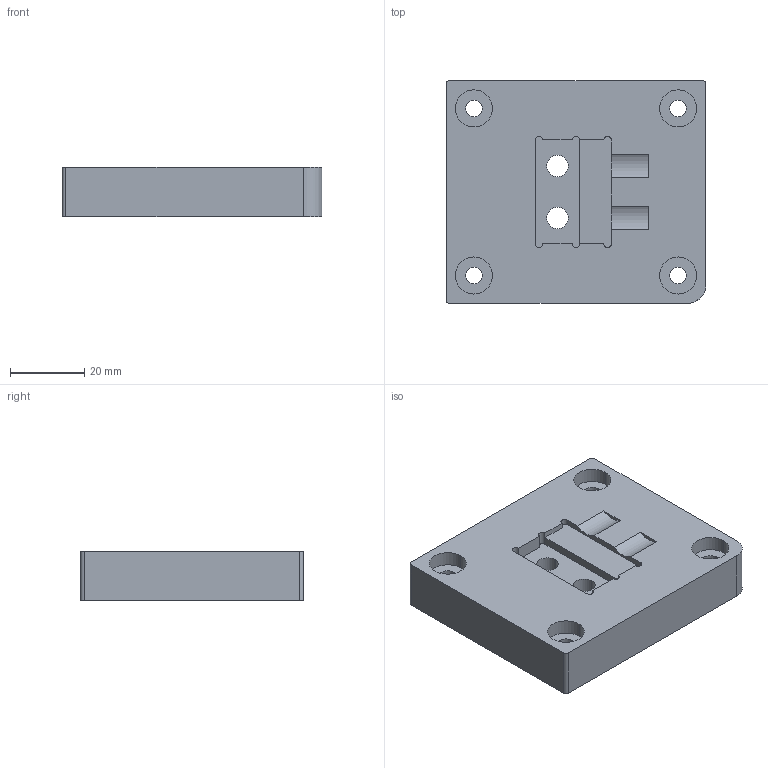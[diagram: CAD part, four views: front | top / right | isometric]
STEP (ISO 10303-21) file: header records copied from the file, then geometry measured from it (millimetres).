
FILE_DESCRIPTION(('CATIA V5 STEP Exchange'),'2;1');
FILE_NAME('D:\姚明阳\1、工装图纸\2、腰托阀（开关）治具工装 -2022.11.26更新\AGZL01 腰托阀压钢珠工装1\AGZL01 设计文件（pdf+stp）\AGZL01.03_V2.stp','2022-12-28T02:07:23+00:00',('none'),('none'),'CATIA Version 5 Release 21 GA (IN-10)','CATIA V5 STEP AP214','none');
FILE_SCHEMA(('AUTOMOTIVE_DESIGN { 1 0 10303 214 1 1 1 1 }'));
Length unit declared in the file: millimetre
Products named in the file (1): AGZL01.03_V2
Bounding box: 70 x 60 x 13.3 mm (x, y, z)
Volume: 51714.7 mm3; surface area: 13295.1 mm2
Topology: 1 solids, 1 shells, 53 faces, 136 edges, 90 vertices
Faces by surface type: cylinder 32, plane 21
Entity records: 1564 total; most frequent: CARTESIAN_POINT 296, ORIENTED_EDGE 272, DIRECTION 206, EDGE_CURVE 136, AXIS2_PLACEMENT_3D 98, VERTEX_POINT 90, VECTOR 72, LINE 72
